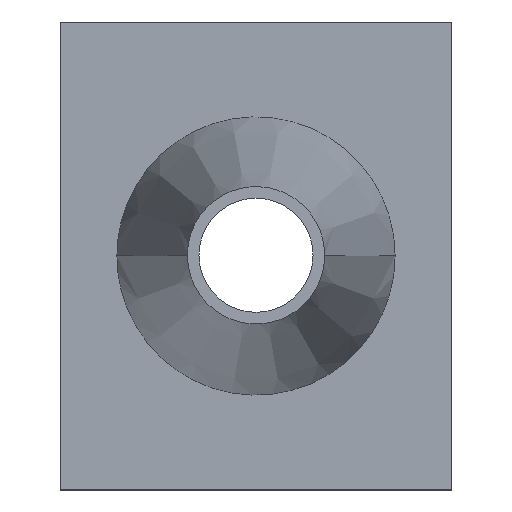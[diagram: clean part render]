
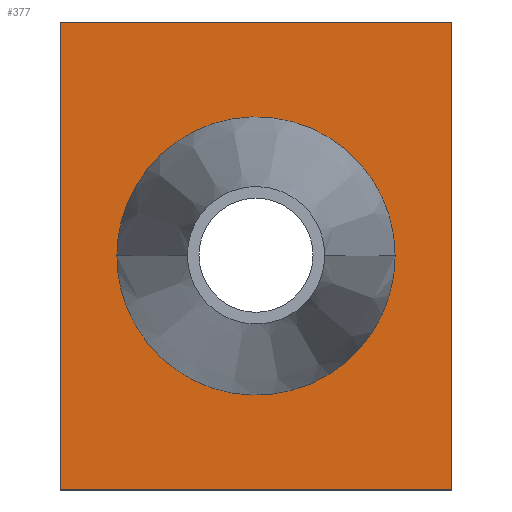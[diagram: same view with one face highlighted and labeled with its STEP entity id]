
A CAD part, top view. The second image highlights one B-rep face of the part: STEP entity #377.
In plain terms, the highlighted planar face has unit normal (0, 0, 1).
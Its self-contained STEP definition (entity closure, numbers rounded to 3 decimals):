
#167=CARTESIAN_POINT('Vertex',(0.,123.,3.)) ;
#174=CARTESIAN_POINT('Vertex',(0.,0.,3.)) ;
#177=CARTESIAN_POINT('Line Origine',(0.,61.5,3.)) ;
#198=CARTESIAN_POINT('Vertex',(103.,123.,3.)) ;
#201=CARTESIAN_POINT('Line Origine',(51.5,123.,3.)) ;
#222=CARTESIAN_POINT('Vertex',(103.,0.,3.)) ;
#225=CARTESIAN_POINT('Line Origine',(103.,61.5,3.)) ;
#242=CARTESIAN_POINT('Line Origine',(51.5,0.,3.)) ;
#324=CARTESIAN_POINT('Axis2P3D Location',(0.,0.,3.)) ;
#336=CARTESIAN_POINT('Control Point',(88.061,61.5,3.)) ;
#337=CARTESIAN_POINT('Control Point',(88.061,67.44,3.)) ;
#338=CARTESIAN_POINT('Control Point',(86.854,73.38,3.)) ;
#339=CARTESIAN_POINT('Control Point',(84.44,78.993,3.)) ;
#340=CARTESIAN_POINT('Control Point',(77.476,88.916,3.)) ;
#341=CARTESIAN_POINT('Control Point',(67.192,95.335,3.)) ;
#342=CARTESIAN_POINT('Control Point',(61.456,97.444,3.)) ;
#343=CARTESIAN_POINT('Control Point',(49.462,99.212,3.)) ;
#344=CARTESIAN_POINT('Control Point',(37.728,96.161,3.)) ;
#345=CARTESIAN_POINT('Control Point',(32.252,93.447,3.)) ;
#346=CARTESIAN_POINT('Control Point',(23.354,86.454,3.)) ;
#347=CARTESIAN_POINT('Control Point',(17.661,76.738,3.)) ;
#348=CARTESIAN_POINT('Control Point',(15.846,71.8,3.)) ;
#349=CARTESIAN_POINT('Control Point',(14.939,66.65,3.)) ;
#350=CARTESIAN_POINT('Control Point',(14.939,61.5,3.)) ;
#351=CARTESIAN_POINT('Vertex',(88.061,61.5,3.)) ;
#353=CARTESIAN_POINT('Vertex',(14.939,61.5,3.)) ;
#357=CARTESIAN_POINT('Control Point',(88.061,61.5,3.)) ;
#358=CARTESIAN_POINT('Control Point',(88.061,55.56,3.)) ;
#359=CARTESIAN_POINT('Control Point',(86.854,49.62,3.)) ;
#360=CARTESIAN_POINT('Control Point',(84.44,44.007,3.)) ;
#361=CARTESIAN_POINT('Control Point',(77.476,34.084,3.)) ;
#362=CARTESIAN_POINT('Control Point',(67.192,27.665,3.)) ;
#363=CARTESIAN_POINT('Control Point',(61.456,25.556,3.)) ;
#364=CARTESIAN_POINT('Control Point',(49.462,23.788,3.)) ;
#365=CARTESIAN_POINT('Control Point',(37.728,26.839,3.)) ;
#366=CARTESIAN_POINT('Control Point',(32.252,29.553,3.)) ;
#367=CARTESIAN_POINT('Control Point',(23.354,36.546,3.)) ;
#368=CARTESIAN_POINT('Control Point',(17.661,46.262,3.)) ;
#369=CARTESIAN_POINT('Control Point',(15.846,51.2,3.)) ;
#370=CARTESIAN_POINT('Control Point',(14.939,56.35,3.)) ;
#371=CARTESIAN_POINT('Control Point',(14.939,61.5,3.)) ;
#178=DIRECTION('Vector Direction',(0.,1.,0.)) ;
#202=DIRECTION('Vector Direction',(-1.,0.,0.)) ;
#226=DIRECTION('Vector Direction',(0.,1.,0.)) ;
#243=DIRECTION('Vector Direction',(1.,0.,0.)) ;
#325=DIRECTION('Axis2P3D Direction',(0.,0.,1.)) ;
#326=DIRECTION('Axis2P3D XDirection',(1.,0.,0.)) ;
#327=AXIS2_PLACEMENT_3D('Plane Axis2P3D',#324,#325,#326) ;
#330=ORIENTED_EDGE('',*,*,#181,.F.) ;
#331=ORIENTED_EDGE('',*,*,#246,.T.) ;
#332=ORIENTED_EDGE('',*,*,#229,.T.) ;
#333=ORIENTED_EDGE('',*,*,#205,.T.) ;
#374=ORIENTED_EDGE('',*,*,#355,.F.) ;
#375=ORIENTED_EDGE('',*,*,#372,.T.) ;
#376=FACE_BOUND('',#373,.T.) ;
#179=VECTOR('Line Direction',#178,1.) ;
#203=VECTOR('Line Direction',#202,1.) ;
#227=VECTOR('Line Direction',#226,1.) ;
#244=VECTOR('Line Direction',#243,1.) ;
#377=ADVANCED_FACE('PartBody',(#334,#376),#328,.T.) ;
#335=B_SPLINE_CURVE_WITH_KNOTS('',5,(#336,#337,#338,#339,#340,#341,#342,#343,#344,#345,#346,#347,#348,#349,#350),.UNSPECIFIED.,.F.,.U.,(6,3,3,3,6),(0.,32.101,64.207,96.313,124.147),.UNSPECIFIED.) ;
#356=B_SPLINE_CURVE_WITH_KNOTS('',5,(#357,#358,#359,#360,#361,#362,#363,#364,#365,#366,#367,#368,#369,#370,#371),.UNSPECIFIED.,.F.,.U.,(6,3,3,3,6),(0.,32.101,64.207,96.313,124.147),.UNSPECIFIED.) ;
#181=EDGE_CURVE('',#175,#168,#180,.T.) ;
#205=EDGE_CURVE('',#199,#168,#204,.T.) ;
#229=EDGE_CURVE('',#223,#199,#228,.T.) ;
#246=EDGE_CURVE('',#175,#223,#245,.T.) ;
#355=EDGE_CURVE('',#352,#354,#335,.T.) ;
#372=EDGE_CURVE('',#352,#354,#356,.T.) ;
#329=EDGE_LOOP('',(#330,#331,#332,#333)) ;
#373=EDGE_LOOP('',(#374,#375)) ;
#334=FACE_OUTER_BOUND('',#329,.T.) ;
#180=LINE('Line',#177,#179) ;
#204=LINE('Line',#201,#203) ;
#228=LINE('Line',#225,#227) ;
#245=LINE('Line',#242,#244) ;
#328=PLANE('',#327) ;
#168=VERTEX_POINT('',#167) ;
#175=VERTEX_POINT('',#174) ;
#199=VERTEX_POINT('',#198) ;
#223=VERTEX_POINT('',#222) ;
#352=VERTEX_POINT('',#351) ;
#354=VERTEX_POINT('',#353) ;
